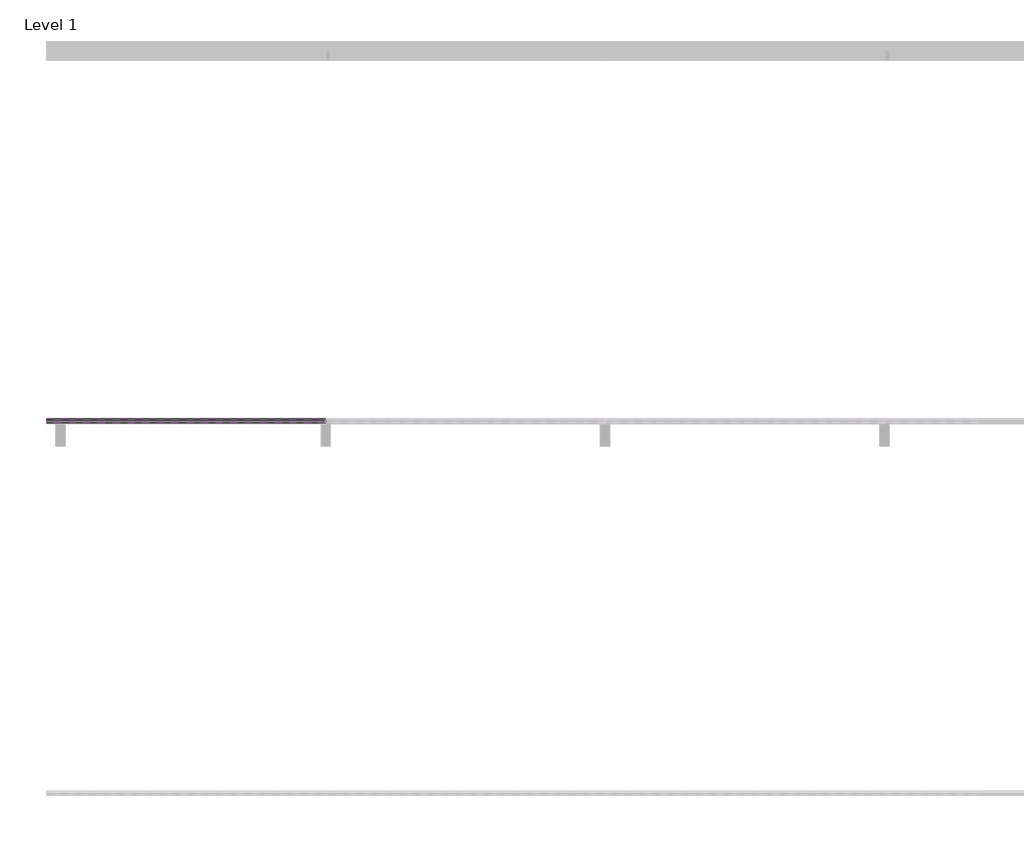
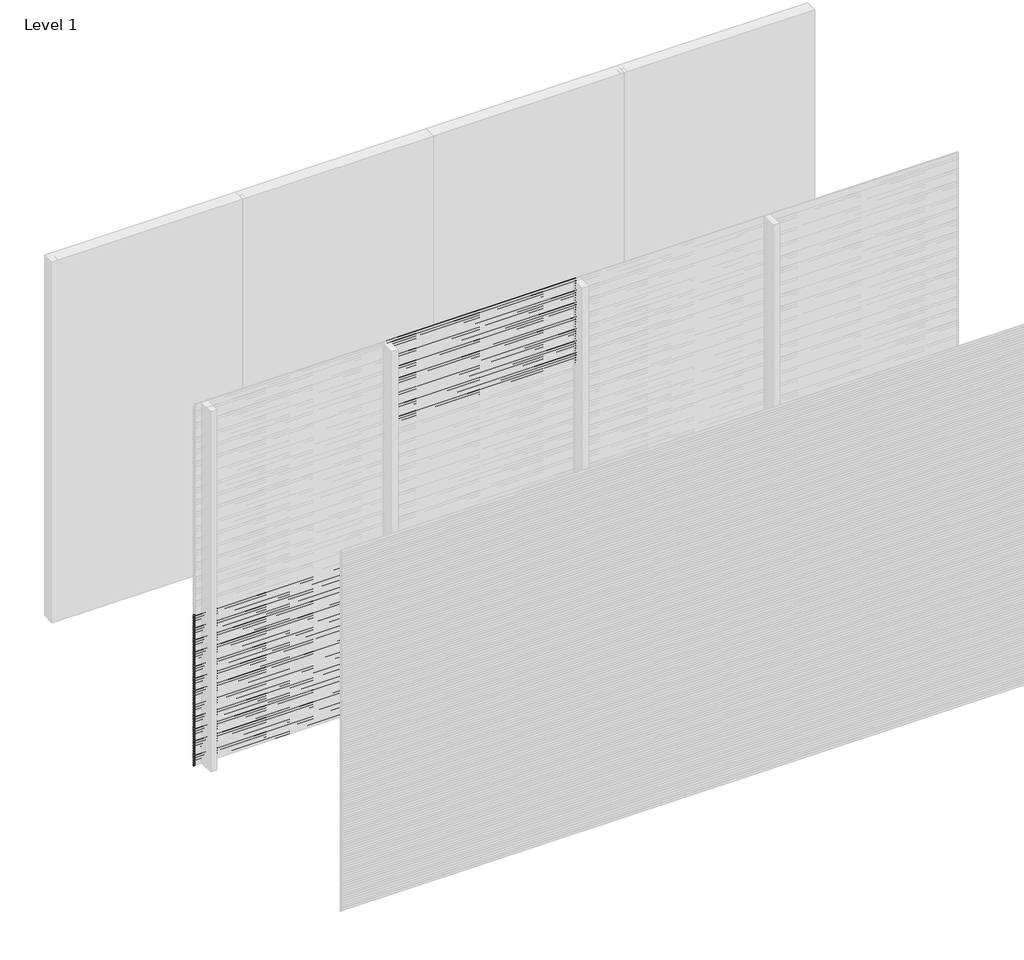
# One storey, part 4 of 31: 98 proxies.
"""IFC4 building model written with IfcOpenShell, lengths in millimetres."""

import ifcopenshell
import ifcopenshell.guid

model = None  # the IFC model being written
_history = None  # IfcOwnerHistory: only IFC2X3 demands one
_inside = {}  # id of a spatial element -> (the spatial element, [elements in it])
_under = {}  # id of a project, library or spatial element -> (it, [spatial elements below it])
_declared = {}  # id of a project -> (the project, [libraries it declares])
_typed = {}  # id of a type object -> (the type object, [elements of that type])
_made_of = {}  # id of a material, layer set ... -> (it, [elements and type objects made of it])


def new_model(schema):
    """Start an empty IFC model of exactly this schema.

    Asked for "IFC4X3", IfcOpenShell would pick the latest addendum, in which some entities
    have other attributes; the version numbers below select the first issue.
    IFC2X3 requires an IfcOwnerHistory on every rooted entity: one is made here for all.
    """
    global model, _history
    if schema == "IFC4X3":
        model = ifcopenshell.file(schema_version=(4, 3, 0, 0))
    else:
        model = ifcopenshell.file(schema=schema)
    _inside.clear()
    _under.clear()
    _declared.clear()
    _typed.clear()
    _made_of.clear()
    _history = None
    if model.schema == "IFC2X3":
        org = make("IfcOrganization", Name="unknown")
        user = make(
            "IfcPersonAndOrganization",
            ThePerson=make("IfcPerson", FamilyName="unknown"),
            TheOrganization=org,
        )
        app = make(
            "IfcApplication",
            ApplicationDeveloper=org,
            Version="unknown",
            ApplicationFullName="unknown",
            ApplicationIdentifier="unknown",
        )
        _history = make(
            "IfcOwnerHistory",
            OwningUser=user,
            OwningApplication=app,
            ChangeAction="ADDED",
            CreationDate=0,
        )
    return model


def make(cls, **values):
    """One entity of the class cls with the attributes given. An attribute that is None is left unset."""
    return model.create_entity(
        cls, **{name: value for name, value in values.items() if value is not None}
    )


def rooted(cls, **values):
    """An entity with a GlobalId (a new one), such as an element, a storey or a relation."""
    return make(cls, GlobalId=ifcopenshell.guid.new(), OwnerHistory=_history, **values)


def si_unit(unit_type, name, prefix=None):
    """IfcSIUnit, for example si_unit("LENGTHUNIT", "METRE", prefix="MILLI")."""
    return make("IfcSIUnit", UnitType=unit_type, Prefix=prefix, Name=name)


def assignment(units):
    """IfcUnitAssignment: the units of a project."""
    return None if units is None else make("IfcUnitAssignment", Units=units)


def point(xyz):
    """IfcCartesianPoint."""
    return None if xyz is None else make("IfcCartesianPoint", Coordinates=xyz)


def direction(xyz):
    """IfcDirection."""
    return None if xyz is None else make("IfcDirection", DirectionRatios=xyz)


def frame(location, z_axis=None, x_axis=None):
    """IfcAxis2Placement3D, a coordinate frame: its origin and axes. An axis left out is left unset."""
    return make(
        "IfcAxis2Placement3D",
        Location=point(location),
        Axis=direction(z_axis),
        RefDirection=direction(x_axis),
    )


def origin():
    """The frame at (0, 0, 0) with its axes left unset."""
    return frame((0.0, 0.0, 0.0))


def place(relative_to, where):
    """IfcLocalPlacement: puts the frame where relative to a parent placement (None: the world)."""
    return make(
        "IfcLocalPlacement", PlacementRelTo=relative_to, RelativePlacement=where
    )


def context(
    kind, dimensions, precision=None, world=None, true_north=None, identifier=None
):
    """IfcGeometricRepresentationContext, for example the 3D "Model" context."""
    return make(
        "IfcGeometricRepresentationContext",
        ContextIdentifier=identifier,
        ContextType=kind,
        CoordinateSpaceDimension=dimensions,
        Precision=precision,
        WorldCoordinateSystem=world,
        TrueNorth=true_north,
    )


def project(units=None, contexts=None):
    """IfcProject with its units and contexts."""
    return rooted(
        "IfcProject",
        Name="project",
        RepresentationContexts=contexts,
        UnitsInContext=assignment(units),
    )


def spatial(cls, under=None, at=None, **own):
    """A site, building, storey or space (cls), placed at a placement, below another one or the project."""
    s = rooted(cls, ObjectPlacement=at, **own)
    if under is not None:
        _under.setdefault(under.id(), (under, []))[1].append(s)
    return s


def polyline(points):
    """IfcPolyline through the points."""
    return make("IfcPolyline", Points=[point(p) for p in points])


def outline(outer, holes=None, kind="AREA"):
    """IfcArbitraryClosedProfileDef: a profile drawn as a closed curve; with holes, ...WithVoids."""
    if holes is None:
        return make("IfcArbitraryClosedProfileDef", ProfileType=kind, OuterCurve=outer)
    return make(
        "IfcArbitraryProfileDefWithVoids",
        ProfileType=kind,
        OuterCurve=outer,
        InnerCurves=holes,
    )


def extrude(swept, where, along, depth):
    """IfcExtrudedAreaSolid: the profile swept, set in the frame where, extruded along a direction by depth."""
    return make(
        "IfcExtrudedAreaSolid",
        SweptArea=swept,
        Position=where,
        ExtrudedDirection=direction(along),
        Depth=depth,
    )


def shape(context_of_items, identifier, shape_type, items):
    """IfcShapeRepresentation: the items that make up one representation, for example the "Body"."""
    return make(
        "IfcShapeRepresentation",
        ContextOfItems=context_of_items,
        RepresentationIdentifier=identifier,
        RepresentationType=shape_type,
        Items=items,
    )


def made_of(thing, what):
    """Note that an element or type object is made of a material, layer set ...; save() writes the relation."""
    if what is not None:
        _made_of.setdefault(what.id(), (what, []))[1].append(thing)
    return thing


def element(
    cls,
    number,
    at=None,
    inside=None,
    cuts=None,
    type_object=None,
    material=None,
    context=None,
    identifier="Body",
    shape_type=None,
    held_by="IfcProductDefinitionShape",
    body=None,
    shapes=None,
    **own,
):
    """One element of the class cls, such as IfcWall. Its Tag is "e" and its number.

    at: its placement. inside: the storey or other place that contains it. cuts: it is an
    opening in that element (IfcRelVoidsElement). A single representation is given by context,
    identifier, shape_type and body (its items); several are given by shapes. held_by: the class
    of the entity that holds the representations. save() writes the other relations.
    """
    e = rooted(cls, Tag="e%d" % number, ObjectPlacement=at, **own)
    if body is not None:
        shapes = [shape(context, identifier, shape_type, body)]
    if shapes is not None:
        e.Representation = make(held_by, Representations=shapes)
    if inside is not None:
        _inside.setdefault(inside.id(), (inside, []))[1].append(e)
    if cuts is not None:
        rooted(
            "IfcRelVoidsElement", RelatingBuildingElement=cuts, RelatedOpeningElement=e
        )
    if type_object is not None:
        _typed.setdefault(type_object.id(), (type_object, []))[1].append(e)
    return made_of(e, material)


def aggregate(whole, parts):
    """IfcRelAggregates: a whole, such as a stair, and the parts it consists of."""
    return rooted("IfcRelAggregates", RelatingObject=whole, RelatedObjects=parts)


def save(model, path):
    """Write the relations noted so far, then the file.

    IfcRelAggregates (storeys below a building ...), IfcRelContainedInSpatialStructure (elements
    in a storey), IfcRelDefinesByType, IfcRelAssociatesMaterial and IfcRelDeclares: one each for
    every whole, place, type object, material and project.
    """
    for whole, parts in _under.values():
        aggregate(whole, parts)
    for where, things in _inside.values():
        rooted(
            "IfcRelContainedInSpatialStructure",
            RelatedElements=things,
            RelatingStructure=where,
        )
    for kind, things in _typed.values():
        rooted("IfcRelDefinesByType", RelatedObjects=things, RelatingType=kind)
    for what, things in _made_of.values():
        rooted("IfcRelAssociatesMaterial", RelatedObjects=things, RelatingMaterial=what)
    for by, libraries in _declared.values():
        rooted("IfcRelDeclares", RelatingContext=by, RelatedDefinitions=libraries)
    model.write(path)


model = new_model("IFC4")

# Units and contexts
model_context = context("Model", 3, world=origin())
ifc_project = project(units=[si_unit("LENGTHUNIT", "METRE", prefix="MILLI")], contexts=[model_context])

# Site, building, storey
site = spatial("IfcSite", under=ifc_project)
building = spatial("IfcBuilding", under=site)
storey = spatial("IfcBuildingStorey", under=building, Name="Level 1", Elevation=0.0)

# Proxies
placement = place(None, origin())
element("IfcBuildingElementProxy", 1, Name="Wall Sweeps", at=placement, inside=storey, context=model_context, shape_type="SweptSolid", body=[
    extrude(outline(polyline([(-17995.0, 3000.0), (-17995.0, 2988.942893), (-17976.0, 2973.0), (-17976.0, 2960.0), (-17997.0, 2977.6210923), (-17997.0, 3000.0), (-17995.0, 3000.0)])), frame((1500.0000002, 0.0, 0.0), z_axis=(1.0, 0.0, 0.0), x_axis=(0.0, 1.0, 0.0)), (0.0, 0.0, 1.0), 1499.9999998),
])
element("IfcBuildingElementProxy", 2, Name="Wall Sweeps", at=placement, inside=storey, context=model_context, shape_type="SweptSolid", body=[
    extrude(outline(polyline([(-17995.0, 2980.0), (-17995.0, 2968.942893), (-17976.0, 2953.0), (-17976.0, 2940.0), (-17997.0, 2957.6210923), (-17997.0, 2980.0), (-17995.0, 2980.0)])), frame((1500.0000002, 0.0, 0.0), z_axis=(1.0, 0.0, 0.0), x_axis=(0.0, 1.0, 0.0)), (0.0, 0.0, 1.0), 1499.9999998),
])
element("IfcBuildingElementProxy", 3, Name="Wall Sweeps", at=placement, inside=storey, context=model_context, shape_type="SweptSolid", body=[
    extrude(outline(polyline([(-17995.0, 2960.0), (-17995.0, 2948.942893), (-17976.0, 2933.0), (-17976.0, 2920.0), (-17997.0, 2937.6210923), (-17997.0, 2960.0), (-17995.0, 2960.0)])), frame((1500.0000002, 0.0, 0.0), z_axis=(1.0, 0.0, 0.0), x_axis=(0.0, 1.0, 0.0)), (0.0, 0.0, 1.0), 1499.9999998),
])
element("IfcBuildingElementProxy", 4, Name="Wall Sweeps", at=placement, inside=storey, context=model_context, shape_type="SweptSolid", body=[
    extrude(outline(polyline([(-17995.0, 2940.0), (-17995.0, 2928.942893), (-17976.0, 2913.0), (-17976.0, 2900.0), (-17997.0, 2917.6210923), (-17997.0, 2940.0), (-17995.0, 2940.0)])), frame((1500.0000002, 0.0, 0.0), z_axis=(1.0, 0.0, 0.0), x_axis=(0.0, 1.0, 0.0)), (0.0, 0.0, 1.0), 1499.9999998),
])
element("IfcBuildingElementProxy", 5, Name="Wall Sweeps", at=placement, inside=storey, context=model_context, shape_type="SweptSolid", body=[
    extrude(outline(polyline([(-17995.0, 2920.0), (-17995.0, 2908.942893), (-17976.0, 2893.0), (-17976.0, 2880.0), (-17997.0, 2897.6210923), (-17997.0, 2920.0), (-17995.0, 2920.0)])), frame((1500.0000002, 0.0, 0.0), z_axis=(1.0, 0.0, 0.0), x_axis=(0.0, 1.0, 0.0)), (0.0, 0.0, 1.0), 1499.9999998),
])
element("IfcBuildingElementProxy", 6, Name="Wall Sweeps", at=placement, inside=storey, context=model_context, shape_type="SweptSolid", body=[
    extrude(outline(polyline([(-17995.0, 2900.0), (-17995.0, 2888.942893), (-17976.0, 2873.0), (-17976.0, 2860.0), (-17997.0, 2877.6210923), (-17997.0, 2900.0), (-17995.0, 2900.0)])), frame((1500.0000002, 0.0, 0.0), z_axis=(1.0, 0.0, 0.0), x_axis=(0.0, 1.0, 0.0)), (0.0, 0.0, 1.0), 1499.9999998),
])
element("IfcBuildingElementProxy", 7, Name="Wall Sweeps", at=placement, inside=storey, context=model_context, shape_type="SweptSolid", body=[
    extrude(outline(polyline([(-17995.0, 2880.0), (-17995.0, 2868.942893), (-17976.0, 2853.0), (-17976.0, 2840.0), (-17997.0, 2857.6210923), (-17997.0, 2880.0), (-17995.0, 2880.0)])), frame((1500.0000002, 0.0, 0.0), z_axis=(1.0, 0.0, 0.0), x_axis=(0.0, 1.0, 0.0)), (0.0, 0.0, 1.0), 1499.9999998),
])
element("IfcBuildingElementProxy", 8, Name="Wall Sweeps", at=placement, inside=storey, context=model_context, shape_type="SweptSolid", body=[
    extrude(outline(polyline([(-17995.0, 2860.0), (-17995.0, 2848.942893), (-17976.0, 2833.0), (-17976.0, 2820.0), (-17997.0, 2837.6210923), (-17997.0, 2860.0), (-17995.0, 2860.0)])), frame((1500.0000002, 0.0, 0.0), z_axis=(1.0, 0.0, 0.0), x_axis=(0.0, 1.0, 0.0)), (0.0, 0.0, 1.0), 1499.9999998),
])
element("IfcBuildingElementProxy", 9, Name="Wall Sweeps", at=placement, inside=storey, context=model_context, shape_type="SweptSolid", body=[
    extrude(outline(polyline([(-17995.0, 2840.0), (-17995.0, 2828.942893), (-17976.0, 2813.0), (-17976.0, 2800.0), (-17997.0, 2817.6210923), (-17997.0, 2840.0), (-17995.0, 2840.0)])), frame((1500.0000002, 0.0, 0.0), z_axis=(1.0, 0.0, 0.0), x_axis=(0.0, 1.0, 0.0)), (0.0, 0.0, 1.0), 1499.9999998),
])
element("IfcBuildingElementProxy", 10, Name="Wall Sweeps", at=placement, inside=storey, context=model_context, shape_type="SweptSolid", body=[
    extrude(outline(polyline([(-17995.0, 2820.0), (-17995.0, 2808.942893), (-17976.0, 2793.0), (-17976.0, 2780.0), (-17997.0, 2797.6210923), (-17997.0, 2820.0), (-17995.0, 2820.0)])), frame((1500.0000002, 0.0, 0.0), z_axis=(1.0, 0.0, 0.0), x_axis=(0.0, 1.0, 0.0)), (0.0, 0.0, 1.0), 1499.9999998),
])
element("IfcBuildingElementProxy", 11, Name="Wall Sweeps", at=placement, inside=storey, context=model_context, shape_type="SweptSolid", body=[
    extrude(outline(polyline([(-17995.0, 2800.0), (-17995.0, 2788.942893), (-17976.0, 2773.0), (-17976.0, 2760.0), (-17997.0, 2777.6210923), (-17997.0, 2800.0), (-17995.0, 2800.0)])), frame((1500.0000002, 0.0, 0.0), z_axis=(1.0, 0.0, 0.0), x_axis=(0.0, 1.0, 0.0)), (0.0, 0.0, 1.0), 1499.9999998),
])
element("IfcBuildingElementProxy", 12, Name="Wall Sweeps", at=placement, inside=storey, context=model_context, shape_type="SweptSolid", body=[
    extrude(outline(polyline([(-17995.0, 2780.0), (-17995.0, 2768.942893), (-17976.0, 2753.0), (-17976.0, 2740.0), (-17997.0, 2757.6210923), (-17997.0, 2780.0), (-17995.0, 2780.0)])), frame((1500.0000002, 0.0, 0.0), z_axis=(1.0, 0.0, 0.0), x_axis=(0.0, 1.0, 0.0)), (0.0, 0.0, 1.0), 1499.9999998),
])
element("IfcBuildingElementProxy", 13, Name="Wall Sweeps", at=placement, inside=storey, context=model_context, shape_type="SweptSolid", body=[
    extrude(outline(polyline([(-17995.0, 2760.0), (-17995.0, 2748.942893), (-17976.0, 2733.0), (-17976.0, 2720.0), (-17997.0, 2737.6210923), (-17997.0, 2760.0), (-17995.0, 2760.0)])), frame((1500.0000002, 0.0, 0.0), z_axis=(1.0, 0.0, 0.0), x_axis=(0.0, 1.0, 0.0)), (0.0, 0.0, 1.0), 1499.9999998),
])
element("IfcBuildingElementProxy", 14, Name="Wall Sweeps", at=placement, inside=storey, context=model_context, shape_type="SweptSolid", body=[
    extrude(outline(polyline([(-17995.0, 2740.0), (-17995.0, 2728.942893), (-17976.0, 2713.0), (-17976.0, 2700.0), (-17997.0, 2717.6210923), (-17997.0, 2740.0), (-17995.0, 2740.0)])), frame((1500.0000002, 0.0, 0.0), z_axis=(1.0, 0.0, 0.0), x_axis=(0.0, 1.0, 0.0)), (0.0, 0.0, 1.0), 1499.9999998),
])
element("IfcBuildingElementProxy", 15, Name="Wall Sweeps", at=placement, inside=storey, context=model_context, shape_type="SweptSolid", body=[
    extrude(outline(polyline([(-17995.0, 2720.0), (-17995.0, 2708.942893), (-17976.0, 2693.0), (-17976.0, 2680.0), (-17997.0, 2697.6210923), (-17997.0, 2720.0), (-17995.0, 2720.0)])), frame((1500.0000002, 0.0, 0.0), z_axis=(1.0, 0.0, 0.0), x_axis=(0.0, 1.0, 0.0)), (0.0, 0.0, 1.0), 1499.9999998),
])
element("IfcBuildingElementProxy", 16, Name="Wall Sweeps", at=placement, inside=storey, context=model_context, shape_type="SweptSolid", body=[
    extrude(outline(polyline([(-17995.0, 2700.0), (-17995.0, 2688.942893), (-17976.0, 2673.0), (-17976.0, 2660.0), (-17997.0, 2677.6210923), (-17997.0, 2700.0), (-17995.0, 2700.0)])), frame((1500.0000002, 0.0, 0.0), z_axis=(1.0, 0.0, 0.0), x_axis=(0.0, 1.0, 0.0)), (0.0, 0.0, 1.0), 1499.9999998),
])
element("IfcBuildingElementProxy", 17, Name="Wall Sweeps", at=placement, inside=storey, context=model_context, shape_type="SweptSolid", body=[
    extrude(outline(polyline([(-17995.0, 2680.0), (-17995.0, 2668.942893), (-17976.0, 2653.0), (-17976.0, 2640.0), (-17997.0, 2657.6210923), (-17997.0, 2680.0), (-17995.0, 2680.0)])), frame((1500.0000002, 0.0, 0.0), z_axis=(1.0, 0.0, 0.0), x_axis=(0.0, 1.0, 0.0)), (0.0, 0.0, 1.0), 1499.9999998),
])
element("IfcBuildingElementProxy", 18, Name="Wall Sweeps", at=placement, inside=storey, context=model_context, shape_type="SweptSolid", body=[
    extrude(outline(polyline([(-17995.0, 2660.0), (-17995.0, 2648.942893), (-17976.0, 2633.0), (-17976.0, 2620.0), (-17997.0, 2637.6210923), (-17997.0, 2660.0), (-17995.0, 2660.0)])), frame((1500.0000002, 0.0, 0.0), z_axis=(1.0, 0.0, 0.0), x_axis=(0.0, 1.0, 0.0)), (0.0, 0.0, 1.0), 1499.9999998),
])
element("IfcBuildingElementProxy", 19, Name="Wall Sweeps", at=placement, inside=storey, context=model_context, shape_type="SweptSolid", body=[
    extrude(outline(polyline([(-17995.0, 2640.0), (-17995.0, 2628.942893), (-17976.0, 2613.0), (-17976.0, 2600.0), (-17997.0, 2617.6210923), (-17997.0, 2640.0), (-17995.0, 2640.0)])), frame((1500.0000002, 0.0, 0.0), z_axis=(1.0, 0.0, 0.0), x_axis=(0.0, 1.0, 0.0)), (0.0, 0.0, 1.0), 1499.9999998),
])
element("IfcBuildingElementProxy", 20, Name="Wall Sweeps", at=placement, inside=storey, context=model_context, shape_type="SweptSolid", body=[
    extrude(outline(polyline([(-17995.0, 2620.0), (-17995.0, 2608.942893), (-17976.0, 2593.0), (-17976.0, 2580.0), (-17997.0, 2597.6210923), (-17997.0, 2620.0), (-17995.0, 2620.0)])), frame((1500.0000002, 0.0, 0.0), z_axis=(1.0, 0.0, 0.0), x_axis=(0.0, 1.0, 0.0)), (0.0, 0.0, 1.0), 1499.9999998),
])
element("IfcBuildingElementProxy", 21, Name="Wall Sweeps", at=placement, inside=storey, context=model_context, shape_type="SweptSolid", body=[
    extrude(outline(polyline([(-17995.0, 2600.0), (-17995.0, 2588.942893), (-17976.0, 2573.0), (-17976.0, 2560.0), (-17997.0, 2577.6210923), (-17997.0, 2600.0), (-17995.0, 2600.0)])), frame((1500.0000002, 0.0, 0.0), z_axis=(1.0, 0.0, 0.0), x_axis=(0.0, 1.0, 0.0)), (0.0, 0.0, 1.0), 1499.9999998),
])
element("IfcBuildingElementProxy", 22, Name="Wall Sweeps", at=placement, inside=storey, context=model_context, shape_type="SweptSolid", body=[
    extrude(outline(polyline([(-17995.0, 2580.0), (-17995.0, 2568.942893), (-17976.0, 2553.0), (-17976.0, 2540.0), (-17997.0, 2557.6210923), (-17997.0, 2580.0), (-17995.0, 2580.0)])), frame((1500.0000002, 0.0, 0.0), z_axis=(1.0, 0.0, 0.0), x_axis=(0.0, 1.0, 0.0)), (0.0, 0.0, 1.0), 1499.9999998),
])
element("IfcBuildingElementProxy", 23, Name="Wall Sweeps", at=placement, inside=storey, context=model_context, shape_type="SweptSolid", body=[
    extrude(outline(polyline([(-17995.0, 2560.0), (-17995.0, 2548.942893), (-17976.0, 2533.0), (-17976.0, 2520.0), (-17997.0, 2537.6210923), (-17997.0, 2560.0), (-17995.0, 2560.0)])), frame((1500.0000002, 0.0, 0.0), z_axis=(1.0, 0.0, 0.0), x_axis=(0.0, 1.0, 0.0)), (0.0, 0.0, 1.0), 1499.9999998),
])
element("IfcBuildingElementProxy", 24, Name="Wall Sweeps", at=placement, inside=storey, context=model_context, shape_type="SweptSolid", body=[
    extrude(outline(polyline([(-17995.0, 2540.0), (-17995.0, 2528.942893), (-17976.0, 2513.0), (-17976.0, 2500.0), (-17997.0, 2517.6210923), (-17997.0, 2540.0), (-17995.0, 2540.0)])), frame((1500.0000002, 0.0, 0.0), z_axis=(1.0, 0.0, 0.0), x_axis=(0.0, 1.0, 0.0)), (0.0, 0.0, 1.0), 1499.9999998),
])
element("IfcBuildingElementProxy", 25, Name="Wall Sweeps", at=placement, inside=storey, context=model_context, shape_type="SweptSolid", body=[
    extrude(outline(polyline([(-17995.0, 2520.0), (-17995.0, 2508.942893), (-17976.0, 2493.0), (-17976.0, 2480.0), (-17997.0, 2497.6210923), (-17997.0, 2520.0), (-17995.0, 2520.0)])), frame((1500.0000002, 0.0, 0.0), z_axis=(1.0, 0.0, 0.0), x_axis=(0.0, 1.0, 0.0)), (0.0, 0.0, 1.0), 1499.9999998),
])
element("IfcBuildingElementProxy", 26, Name="Wall Sweeps", at=placement, inside=storey, context=model_context, shape_type="SweptSolid", body=[
    extrude(outline(polyline([(-17995.0, 2500.0), (-17995.0, 2488.942893), (-17976.0, 2473.0), (-17976.0, 2460.0), (-17997.0, 2477.6210923), (-17997.0, 2500.0), (-17995.0, 2500.0)])), frame((1500.0000002, 0.0, 0.0), z_axis=(1.0, 0.0, 0.0), x_axis=(0.0, 1.0, 0.0)), (0.0, 0.0, 1.0), 1499.9999998),
])
element("IfcBuildingElementProxy", 27, Name="Wall Sweeps", at=placement, inside=storey, context=model_context, shape_type="SweptSolid", body=[
    extrude(outline(polyline([(-17995.0, 2480.0), (-17995.0, 2468.942893), (-17976.0, 2453.0), (-17976.0, 2440.0), (-17997.0, 2457.6210923), (-17997.0, 2480.0), (-17995.0, 2480.0)])), frame((1500.0000002, 0.0, 0.0), z_axis=(1.0, 0.0, 0.0), x_axis=(0.0, 1.0, 0.0)), (0.0, 0.0, 1.0), 1499.9999998),
])
element("IfcBuildingElementProxy", 28, Name="Wall Sweeps", at=placement, inside=storey, context=model_context, shape_type="SweptSolid", body=[
    extrude(outline(polyline([(-17995.0, 2460.0), (-17995.0, 2448.942893), (-17976.0, 2433.0), (-17976.0, 2420.0), (-17997.0, 2437.6210923), (-17997.0, 2460.0), (-17995.0, 2460.0)])), frame((1500.0000002, 0.0, 0.0), z_axis=(1.0, 0.0, 0.0), x_axis=(0.0, 1.0, 0.0)), (0.0, 0.0, 1.0), 1499.9999998),
])
element("IfcBuildingElementProxy", 29, Name="Wall Sweeps", at=placement, inside=storey, context=model_context, shape_type="SweptSolid", body=[
    extrude(outline(polyline([(-17995.0, 2440.0), (-17995.0, 2428.942893), (-17976.0, 2413.0), (-17976.0, 2400.0), (-17997.0, 2417.6210923), (-17997.0, 2440.0), (-17995.0, 2440.0)])), frame((1500.0000002, 0.0, 0.0), z_axis=(1.0, 0.0, 0.0), x_axis=(0.0, 1.0, 0.0)), (0.0, 0.0, 1.0), 1499.9999998),
])
element("IfcBuildingElementProxy", 30, Name="Wall Sweeps", at=placement, inside=storey, context=model_context, shape_type="SweptSolid", body=[
    extrude(outline(polyline([(-17995.0, 2420.0), (-17995.0, 2408.942893), (-17976.0, 2393.0), (-17976.0, 2380.0), (-17997.0, 2397.6210923), (-17997.0, 2420.0), (-17995.0, 2420.0)])), frame((1500.0000002, 0.0, 0.0), z_axis=(1.0, 0.0, 0.0), x_axis=(0.0, 1.0, 0.0)), (0.0, 0.0, 1.0), 1499.9999998),
])
element("IfcBuildingElementProxy", 31, Name="Wall Sweeps", at=placement, inside=storey, context=model_context, shape_type="SweptSolid", body=[
    extrude(outline(polyline([(-17995.0, 2400.0), (-17995.0, 2388.942893), (-17976.0, 2373.0), (-17976.0, 2360.0), (-17997.0, 2377.6210923), (-17997.0, 2400.0), (-17995.0, 2400.0)])), frame((1500.0000002, 0.0, 0.0), z_axis=(1.0, 0.0, 0.0), x_axis=(0.0, 1.0, 0.0)), (0.0, 0.0, 1.0), 1499.9999998),
])
element("IfcBuildingElementProxy", 32, Name="Wall Sweeps", at=placement, inside=storey, context=model_context, shape_type="SweptSolid", body=[
    extrude(outline(polyline([(-17995.0, 2380.0), (-17995.0, 2368.942893), (-17976.0, 2353.0), (-17976.0, 2340.0), (-17997.0, 2357.6210923), (-17997.0, 2380.0), (-17995.0, 2380.0)])), frame((1500.0000002, 0.0, 0.0), z_axis=(1.0, 0.0, 0.0), x_axis=(0.0, 1.0, 0.0)), (0.0, 0.0, 1.0), 1499.9999998),
])
element("IfcBuildingElementProxy", 33, Name="Wall Sweeps", at=placement, inside=storey, context=model_context, shape_type="SweptSolid", body=[
    extrude(outline(polyline([(-17995.0, 2360.0), (-17995.0, 2348.942893), (-17976.0, 2333.0), (-17976.0, 2320.0), (-17997.0, 2337.6210923), (-17997.0, 2360.0), (-17995.0, 2360.0)])), frame((1500.0000002, 0.0, 0.0), z_axis=(1.0, 0.0, 0.0), x_axis=(0.0, 1.0, 0.0)), (0.0, 0.0, 1.0), 1499.9999998),
])
element("IfcBuildingElementProxy", 34, Name="Wall Sweeps", at=placement, inside=storey, context=model_context, shape_type="SweptSolid", body=[
    extrude(outline(polyline([(-17995.0, 2340.0), (-17995.0, 2328.942893), (-17976.0, 2313.0), (-17976.0, 2300.0), (-17997.0, 2317.6210923), (-17997.0, 2340.0), (-17995.0, 2340.0)])), frame((1500.0000002, 0.0, 0.0), z_axis=(1.0, 0.0, 0.0), x_axis=(0.0, 1.0, 0.0)), (0.0, 0.0, 1.0), 1499.9999998),
])
element("IfcBuildingElementProxy", 35, Name="Wall Sweeps", at=placement, inside=storey, context=model_context, shape_type="SweptSolid", body=[
    extrude(outline(polyline([(-17995.0, 2320.0), (-17995.0, 2308.942893), (-17976.0, 2293.0), (-17976.0, 2280.0), (-17997.0, 2297.6210923), (-17997.0, 2320.0), (-17995.0, 2320.0)])), frame((1500.0000002, 0.0, 0.0), z_axis=(1.0, 0.0, 0.0), x_axis=(0.0, 1.0, 0.0)), (0.0, 0.0, 1.0), 1499.9999998),
])
element("IfcBuildingElementProxy", 36, Name="Wall Sweeps", at=placement, inside=storey, context=model_context, shape_type="SweptSolid", body=[
    extrude(outline(polyline([(-17995.0, 1260.0), (-17995.0, 1248.942893), (-17976.0, 1233.0), (-17976.0, 1220.0), (-17997.0, 1237.6210923), (-17997.0, 1260.0), (-17995.0, 1260.0)])), frame((0.0, 0.0, 0.0), z_axis=(1.0, 0.0, 0.0), x_axis=(0.0, 1.0, 0.0)), (0.0, 0.0, 1.0), 1500.0000002),
])
element("IfcBuildingElementProxy", 37, Name="Wall Sweeps", at=placement, inside=storey, context=model_context, shape_type="SweptSolid", body=[
    extrude(outline(polyline([(-17995.0, 1240.0), (-17995.0, 1228.942893), (-17976.0, 1213.0), (-17976.0, 1200.0), (-17997.0, 1217.6210923), (-17997.0, 1240.0), (-17995.0, 1240.0)])), frame((0.0, 0.0, 0.0), z_axis=(1.0, 0.0, 0.0), x_axis=(0.0, 1.0, 0.0)), (0.0, 0.0, 1.0), 1500.0000002),
])
element("IfcBuildingElementProxy", 38, Name="Wall Sweeps", at=placement, inside=storey, context=model_context, shape_type="SweptSolid", body=[
    extrude(outline(polyline([(-17995.0, 1220.0), (-17995.0, 1208.942893), (-17976.0, 1193.0), (-17976.0, 1180.0), (-17997.0, 1197.6210923), (-17997.0, 1220.0), (-17995.0, 1220.0)])), frame((0.0, 0.0, 0.0), z_axis=(1.0, 0.0, 0.0), x_axis=(0.0, 1.0, 0.0)), (0.0, 0.0, 1.0), 1500.0000002),
])
element("IfcBuildingElementProxy", 39, Name="Wall Sweeps", at=placement, inside=storey, context=model_context, shape_type="SweptSolid", body=[
    extrude(outline(polyline([(-17995.0, 1200.0), (-17995.0, 1188.942893), (-17976.0, 1173.0), (-17976.0, 1160.0), (-17997.0, 1177.6210923), (-17997.0, 1200.0), (-17995.0, 1200.0)])), frame((0.0, 0.0, 0.0), z_axis=(1.0, 0.0, 0.0), x_axis=(0.0, 1.0, 0.0)), (0.0, 0.0, 1.0), 1500.0000002),
])
element("IfcBuildingElementProxy", 40, Name="Wall Sweeps", at=placement, inside=storey, context=model_context, shape_type="SweptSolid", body=[
    extrude(outline(polyline([(-17995.0, 1180.0), (-17995.0, 1168.942893), (-17976.0, 1153.0), (-17976.0, 1140.0), (-17997.0, 1157.6210923), (-17997.0, 1180.0), (-17995.0, 1180.0)])), frame((0.0, 0.0, 0.0), z_axis=(1.0, 0.0, 0.0), x_axis=(0.0, 1.0, 0.0)), (0.0, 0.0, 1.0), 1500.0000002),
])
element("IfcBuildingElementProxy", 41, Name="Wall Sweeps", at=placement, inside=storey, context=model_context, shape_type="SweptSolid", body=[
    extrude(outline(polyline([(-17995.0, 1160.0), (-17995.0, 1148.942893), (-17976.0, 1133.0), (-17976.0, 1120.0), (-17997.0, 1137.6210923), (-17997.0, 1160.0), (-17995.0, 1160.0)])), frame((0.0, 0.0, 0.0), z_axis=(1.0, 0.0, 0.0), x_axis=(0.0, 1.0, 0.0)), (0.0, 0.0, 1.0), 1500.0000002),
])
element("IfcBuildingElementProxy", 42, Name="Wall Sweeps", at=placement, inside=storey, context=model_context, shape_type="SweptSolid", body=[
    extrude(outline(polyline([(-17995.0, 1140.0), (-17995.0, 1128.942893), (-17976.0, 1113.0), (-17976.0, 1100.0), (-17997.0, 1117.6210923), (-17997.0, 1140.0), (-17995.0, 1140.0)])), frame((0.0, 0.0, 0.0), z_axis=(1.0, 0.0, 0.0), x_axis=(0.0, 1.0, 0.0)), (0.0, 0.0, 1.0), 1500.0000002),
])
element("IfcBuildingElementProxy", 43, Name="Wall Sweeps", at=placement, inside=storey, context=model_context, shape_type="SweptSolid", body=[
    extrude(outline(polyline([(-17995.0, 1120.0), (-17995.0, 1108.942893), (-17976.0, 1093.0), (-17976.0, 1080.0), (-17997.0, 1097.6210923), (-17997.0, 1120.0), (-17995.0, 1120.0)])), frame((0.0, 0.0, 0.0), z_axis=(1.0, 0.0, 0.0), x_axis=(0.0, 1.0, 0.0)), (0.0, 0.0, 1.0), 1500.0000002),
])
element("IfcBuildingElementProxy", 44, Name="Wall Sweeps", at=placement, inside=storey, context=model_context, shape_type="SweptSolid", body=[
    extrude(outline(polyline([(-17995.0, 1100.0), (-17995.0, 1088.942893), (-17976.0, 1073.0), (-17976.0, 1060.0), (-17997.0, 1077.6210923), (-17997.0, 1100.0), (-17995.0, 1100.0)])), frame((0.0, 0.0, 0.0), z_axis=(1.0, 0.0, 0.0), x_axis=(0.0, 1.0, 0.0)), (0.0, 0.0, 1.0), 1500.0000002),
])
element("IfcBuildingElementProxy", 45, Name="Wall Sweeps", at=placement, inside=storey, context=model_context, shape_type="SweptSolid", body=[
    extrude(outline(polyline([(-17995.0, 1080.0), (-17995.0, 1068.942893), (-17976.0, 1053.0), (-17976.0, 1040.0), (-17997.0, 1057.6210923), (-17997.0, 1080.0), (-17995.0, 1080.0)])), frame((0.0, 0.0, 0.0), z_axis=(1.0, 0.0, 0.0), x_axis=(0.0, 1.0, 0.0)), (0.0, 0.0, 1.0), 1500.0000002),
])
element("IfcBuildingElementProxy", 46, Name="Wall Sweeps", at=placement, inside=storey, context=model_context, shape_type="SweptSolid", body=[
    extrude(outline(polyline([(-17995.0, 1060.0), (-17995.0, 1048.942893), (-17976.0, 1033.0), (-17976.0, 1020.0), (-17997.0, 1037.6210923), (-17997.0, 1060.0), (-17995.0, 1060.0)])), frame((0.0, 0.0, 0.0), z_axis=(1.0, 0.0, 0.0), x_axis=(0.0, 1.0, 0.0)), (0.0, 0.0, 1.0), 1500.0000002),
])
element("IfcBuildingElementProxy", 47, Name="Wall Sweeps", at=placement, inside=storey, context=model_context, shape_type="SweptSolid", body=[
    extrude(outline(polyline([(-17995.0, 1040.0), (-17995.0, 1028.942893), (-17976.0, 1013.0), (-17976.0, 1000.0), (-17997.0, 1017.6210923), (-17997.0, 1040.0), (-17995.0, 1040.0)])), frame((0.0, 0.0, 0.0), z_axis=(1.0, 0.0, 0.0), x_axis=(0.0, 1.0, 0.0)), (0.0, 0.0, 1.0), 1500.0000002),
])
element("IfcBuildingElementProxy", 48, Name="Wall Sweeps", at=placement, inside=storey, context=model_context, shape_type="SweptSolid", body=[
    extrude(outline(polyline([(-17995.0, 1020.0), (-17995.0, 1008.942893), (-17976.0, 993.0), (-17976.0, 980.0), (-17997.0, 997.6210923), (-17997.0, 1020.0), (-17995.0, 1020.0)])), frame((0.0, 0.0, 0.0), z_axis=(1.0, 0.0, 0.0), x_axis=(0.0, 1.0, 0.0)), (0.0, 0.0, 1.0), 1500.0000002),
])
element("IfcBuildingElementProxy", 49, Name="Wall Sweeps", at=placement, inside=storey, context=model_context, shape_type="SweptSolid", body=[
    extrude(outline(polyline([(-17995.0, 1000.0), (-17995.0, 988.942893), (-17976.0, 973.0), (-17976.0, 960.0), (-17997.0, 977.6210923), (-17997.0, 1000.0), (-17995.0, 1000.0)])), frame((0.0, 0.0, 0.0), z_axis=(1.0, 0.0, 0.0), x_axis=(0.0, 1.0, 0.0)), (0.0, 0.0, 1.0), 1500.0000002),
])
element("IfcBuildingElementProxy", 50, Name="Wall Sweeps", at=placement, inside=storey, context=model_context, shape_type="SweptSolid", body=[
    extrude(outline(polyline([(-17995.0, 980.0), (-17995.0, 968.942893), (-17976.0, 953.0), (-17976.0, 940.0), (-17997.0, 957.6210923), (-17997.0, 980.0), (-17995.0, 980.0)])), frame((0.0, 0.0, 0.0), z_axis=(1.0, 0.0, 0.0), x_axis=(0.0, 1.0, 0.0)), (0.0, 0.0, 1.0), 1500.0000002),
])
element("IfcBuildingElementProxy", 51, Name="Wall Sweeps", at=placement, inside=storey, context=model_context, shape_type="SweptSolid", body=[
    extrude(outline(polyline([(-17995.0, 960.0), (-17995.0, 948.942893), (-17976.0, 933.0), (-17976.0, 920.0), (-17997.0, 937.6210923), (-17997.0, 960.0), (-17995.0, 960.0)])), frame((0.0, 0.0, 0.0), z_axis=(1.0, 0.0, 0.0), x_axis=(0.0, 1.0, 0.0)), (0.0, 0.0, 1.0), 1500.0000002),
])
element("IfcBuildingElementProxy", 52, Name="Wall Sweeps", at=placement, inside=storey, context=model_context, shape_type="SweptSolid", body=[
    extrude(outline(polyline([(-17995.0, 940.0), (-17995.0, 928.942893), (-17976.0, 913.0), (-17976.0, 900.0), (-17997.0, 917.6210923), (-17997.0, 940.0), (-17995.0, 940.0)])), frame((0.0, 0.0, 0.0), z_axis=(1.0, 0.0, 0.0), x_axis=(0.0, 1.0, 0.0)), (0.0, 0.0, 1.0), 1500.0000002),
])
element("IfcBuildingElementProxy", 53, Name="Wall Sweeps", at=placement, inside=storey, context=model_context, shape_type="SweptSolid", body=[
    extrude(outline(polyline([(-17995.0, 920.0), (-17995.0, 908.942893), (-17976.0, 893.0), (-17976.0, 880.0), (-17997.0, 897.6210923), (-17997.0, 920.0), (-17995.0, 920.0)])), frame((0.0, 0.0, 0.0), z_axis=(1.0, 0.0, 0.0), x_axis=(0.0, 1.0, 0.0)), (0.0, 0.0, 1.0), 1500.0000002),
])
element("IfcBuildingElementProxy", 54, Name="Wall Sweeps", at=placement, inside=storey, context=model_context, shape_type="SweptSolid", body=[
    extrude(outline(polyline([(-17995.0, 900.0), (-17995.0, 888.942893), (-17976.0, 873.0), (-17976.0, 860.0), (-17997.0, 877.6210923), (-17997.0, 900.0), (-17995.0, 900.0)])), frame((0.0, 0.0, 0.0), z_axis=(1.0, 0.0, 0.0), x_axis=(0.0, 1.0, 0.0)), (0.0, 0.0, 1.0), 1500.0000002),
])
element("IfcBuildingElementProxy", 55, Name="Wall Sweeps", at=placement, inside=storey, context=model_context, shape_type="SweptSolid", body=[
    extrude(outline(polyline([(-17995.0, 880.0), (-17995.0, 868.942893), (-17976.0, 853.0), (-17976.0, 840.0), (-17997.0, 857.6210923), (-17997.0, 880.0), (-17995.0, 880.0)])), frame((0.0, 0.0, 0.0), z_axis=(1.0, 0.0, 0.0), x_axis=(0.0, 1.0, 0.0)), (0.0, 0.0, 1.0), 1500.0000002),
])
element("IfcBuildingElementProxy", 56, Name="Wall Sweeps", at=placement, inside=storey, context=model_context, shape_type="SweptSolid", body=[
    extrude(outline(polyline([(-17995.0, 860.0), (-17995.0, 848.942893), (-17976.0, 833.0), (-17976.0, 820.0), (-17997.0, 837.6210923), (-17997.0, 860.0), (-17995.0, 860.0)])), frame((0.0, 0.0, 0.0), z_axis=(1.0, 0.0, 0.0), x_axis=(0.0, 1.0, 0.0)), (0.0, 0.0, 1.0), 1500.0000002),
])
element("IfcBuildingElementProxy", 57, Name="Wall Sweeps", at=placement, inside=storey, context=model_context, shape_type="SweptSolid", body=[
    extrude(outline(polyline([(-17995.0, 840.0), (-17995.0, 828.942893), (-17976.0, 813.0), (-17976.0, 800.0), (-17997.0, 817.6210923), (-17997.0, 840.0), (-17995.0, 840.0)])), frame((0.0, 0.0, 0.0), z_axis=(1.0, 0.0, 0.0), x_axis=(0.0, 1.0, 0.0)), (0.0, 0.0, 1.0), 1500.0000002),
])
element("IfcBuildingElementProxy", 58, Name="Wall Sweeps", at=placement, inside=storey, context=model_context, shape_type="SweptSolid", body=[
    extrude(outline(polyline([(-17995.0, 820.0), (-17995.0, 808.942893), (-17976.0, 793.0), (-17976.0, 780.0), (-17997.0, 797.6210923), (-17997.0, 820.0), (-17995.0, 820.0)])), frame((0.0, 0.0, 0.0), z_axis=(1.0, 0.0, 0.0), x_axis=(0.0, 1.0, 0.0)), (0.0, 0.0, 1.0), 1500.0000002),
])
element("IfcBuildingElementProxy", 59, Name="Wall Sweeps", at=placement, inside=storey, context=model_context, shape_type="SweptSolid", body=[
    extrude(outline(polyline([(-17995.0, 800.0), (-17995.0, 788.942893), (-17976.0, 773.0), (-17976.0, 760.0), (-17997.0, 777.6210923), (-17997.0, 800.0), (-17995.0, 800.0)])), frame((0.0, 0.0, 0.0), z_axis=(1.0, 0.0, 0.0), x_axis=(0.0, 1.0, 0.0)), (0.0, 0.0, 1.0), 1500.0000002),
])
element("IfcBuildingElementProxy", 60, Name="Wall Sweeps", at=placement, inside=storey, context=model_context, shape_type="SweptSolid", body=[
    extrude(outline(polyline([(-17995.0, 780.0), (-17995.0, 768.942893), (-17976.0, 753.0), (-17976.0, 740.0), (-17997.0, 757.6210923), (-17997.0, 780.0), (-17995.0, 780.0)])), frame((0.0, 0.0, 0.0), z_axis=(1.0, 0.0, 0.0), x_axis=(0.0, 1.0, 0.0)), (0.0, 0.0, 1.0), 1500.0000002),
])
element("IfcBuildingElementProxy", 61, Name="Wall Sweeps", at=placement, inside=storey, context=model_context, shape_type="SweptSolid", body=[
    extrude(outline(polyline([(-17995.0, 760.0), (-17995.0, 748.942893), (-17976.0, 733.0), (-17976.0, 720.0), (-17997.0, 737.6210923), (-17997.0, 760.0), (-17995.0, 760.0)])), frame((0.0, 0.0, 0.0), z_axis=(1.0, 0.0, 0.0), x_axis=(0.0, 1.0, 0.0)), (0.0, 0.0, 1.0), 1500.0000002),
])
element("IfcBuildingElementProxy", 62, Name="Wall Sweeps", at=placement, inside=storey, context=model_context, shape_type="SweptSolid", body=[
    extrude(outline(polyline([(-17995.0, 740.0), (-17995.0, 728.942893), (-17976.0, 713.0), (-17976.0, 700.0), (-17997.0, 717.6210923), (-17997.0, 740.0), (-17995.0, 740.0)])), frame((0.0, 0.0, 0.0), z_axis=(1.0, 0.0, 0.0), x_axis=(0.0, 1.0, 0.0)), (0.0, 0.0, 1.0), 1500.0000002),
])
element("IfcBuildingElementProxy", 63, Name="Wall Sweeps", at=placement, inside=storey, context=model_context, shape_type="SweptSolid", body=[
    extrude(outline(polyline([(-17995.0, 720.0), (-17995.0, 708.942893), (-17976.0, 693.0), (-17976.0, 680.0), (-17997.0, 697.6210923), (-17997.0, 720.0), (-17995.0, 720.0)])), frame((0.0, 0.0, 0.0), z_axis=(1.0, 0.0, 0.0), x_axis=(0.0, 1.0, 0.0)), (0.0, 0.0, 1.0), 1500.0000002),
])
element("IfcBuildingElementProxy", 64, Name="Wall Sweeps", at=placement, inside=storey, context=model_context, shape_type="SweptSolid", body=[
    extrude(outline(polyline([(-17995.0, 700.0), (-17995.0, 688.942893), (-17976.0, 673.0), (-17976.0, 660.0), (-17997.0, 677.6210923), (-17997.0, 700.0), (-17995.0, 700.0)])), frame((0.0, 0.0, 0.0), z_axis=(1.0, 0.0, 0.0), x_axis=(0.0, 1.0, 0.0)), (0.0, 0.0, 1.0), 1500.0000002),
])
element("IfcBuildingElementProxy", 65, Name="Wall Sweeps", at=placement, inside=storey, context=model_context, shape_type="SweptSolid", body=[
    extrude(outline(polyline([(-17995.0, 680.0), (-17995.0, 668.942893), (-17976.0, 653.0), (-17976.0, 640.0), (-17997.0, 657.6210923), (-17997.0, 680.0), (-17995.0, 680.0)])), frame((0.0, 0.0, 0.0), z_axis=(1.0, 0.0, 0.0), x_axis=(0.0, 1.0, 0.0)), (0.0, 0.0, 1.0), 1500.0000002),
])
element("IfcBuildingElementProxy", 66, Name="Wall Sweeps", at=placement, inside=storey, context=model_context, shape_type="SweptSolid", body=[
    extrude(outline(polyline([(-17995.0, 660.0), (-17995.0, 648.942893), (-17976.0, 633.0), (-17976.0, 620.0), (-17997.0, 637.6210923), (-17997.0, 660.0), (-17995.0, 660.0)])), frame((0.0, 0.0, 0.0), z_axis=(1.0, 0.0, 0.0), x_axis=(0.0, 1.0, 0.0)), (0.0, 0.0, 1.0), 1500.0000002),
])
element("IfcBuildingElementProxy", 67, Name="Wall Sweeps", at=placement, inside=storey, context=model_context, shape_type="SweptSolid", body=[
    extrude(outline(polyline([(-17995.0, 640.0), (-17995.0, 628.942893), (-17976.0, 613.0), (-17976.0, 600.0), (-17997.0, 617.6210923), (-17997.0, 640.0), (-17995.0, 640.0)])), frame((0.0, 0.0, 0.0), z_axis=(1.0, 0.0, 0.0), x_axis=(0.0, 1.0, 0.0)), (0.0, 0.0, 1.0), 1500.0000002),
])
element("IfcBuildingElementProxy", 68, Name="Wall Sweeps", at=placement, inside=storey, context=model_context, shape_type="SweptSolid", body=[
    extrude(outline(polyline([(-17995.0, 620.0), (-17995.0, 608.942893), (-17976.0, 593.0), (-17976.0, 580.0), (-17997.0, 597.6210923), (-17997.0, 620.0), (-17995.0, 620.0)])), frame((0.0, 0.0, 0.0), z_axis=(1.0, 0.0, 0.0), x_axis=(0.0, 1.0, 0.0)), (0.0, 0.0, 1.0), 1500.0000002),
])
element("IfcBuildingElementProxy", 69, Name="Wall Sweeps", at=placement, inside=storey, context=model_context, shape_type="SweptSolid", body=[
    extrude(outline(polyline([(-17995.0, 600.0), (-17995.0, 588.942893), (-17976.0, 573.0), (-17976.0, 560.0), (-17997.0, 577.6210923), (-17997.0, 600.0), (-17995.0, 600.0)])), frame((0.0, 0.0, 0.0), z_axis=(1.0, 0.0, 0.0), x_axis=(0.0, 1.0, 0.0)), (0.0, 0.0, 1.0), 1500.0000002),
])
element("IfcBuildingElementProxy", 70, Name="Wall Sweeps", at=placement, inside=storey, context=model_context, shape_type="SweptSolid", body=[
    extrude(outline(polyline([(-17995.0, 580.0), (-17995.0, 568.942893), (-17976.0, 553.0), (-17976.0, 540.0), (-17997.0, 557.6210923), (-17997.0, 580.0), (-17995.0, 580.0)])), frame((0.0, 0.0, 0.0), z_axis=(1.0, 0.0, 0.0), x_axis=(0.0, 1.0, 0.0)), (0.0, 0.0, 1.0), 1500.0000002),
])
element("IfcBuildingElementProxy", 71, Name="Wall Sweeps", at=placement, inside=storey, context=model_context, shape_type="SweptSolid", body=[
    extrude(outline(polyline([(-17995.0, 560.0), (-17995.0, 548.942893), (-17976.0, 533.0), (-17976.0, 520.0), (-17997.0, 537.6210923), (-17997.0, 560.0), (-17995.0, 560.0)])), frame((0.0, 0.0, 0.0), z_axis=(1.0, 0.0, 0.0), x_axis=(0.0, 1.0, 0.0)), (0.0, 0.0, 1.0), 1500.0000002),
])
element("IfcBuildingElementProxy", 72, Name="Wall Sweeps", at=placement, inside=storey, context=model_context, shape_type="SweptSolid", body=[
    extrude(outline(polyline([(-17995.0, 540.0), (-17995.0, 528.942893), (-17976.0, 513.0), (-17976.0, 500.0), (-17997.0, 517.6210923), (-17997.0, 540.0), (-17995.0, 540.0)])), frame((0.0, 0.0, 0.0), z_axis=(1.0, 0.0, 0.0), x_axis=(0.0, 1.0, 0.0)), (0.0, 0.0, 1.0), 1500.0000002),
])
element("IfcBuildingElementProxy", 73, Name="Wall Sweeps", at=placement, inside=storey, context=model_context, shape_type="SweptSolid", body=[
    extrude(outline(polyline([(-17995.0, 520.0), (-17995.0, 508.942893), (-17976.0, 493.0), (-17976.0, 480.0), (-17997.0, 497.6210923), (-17997.0, 520.0), (-17995.0, 520.0)])), frame((0.0, 0.0, 0.0), z_axis=(1.0, 0.0, 0.0), x_axis=(0.0, 1.0, 0.0)), (0.0, 0.0, 1.0), 1500.0000002),
])
element("IfcBuildingElementProxy", 74, Name="Wall Sweeps", at=placement, inside=storey, context=model_context, shape_type="SweptSolid", body=[
    extrude(outline(polyline([(-17995.0, 500.0), (-17995.0, 488.942893), (-17976.0, 473.0), (-17976.0, 460.0), (-17997.0, 477.6210923), (-17997.0, 500.0), (-17995.0, 500.0)])), frame((0.0, 0.0, 0.0), z_axis=(1.0, 0.0, 0.0), x_axis=(0.0, 1.0, 0.0)), (0.0, 0.0, 1.0), 1500.0000002),
])
element("IfcBuildingElementProxy", 75, Name="Wall Sweeps", at=placement, inside=storey, context=model_context, shape_type="SweptSolid", body=[
    extrude(outline(polyline([(-17995.0, 480.0), (-17995.0, 468.942893), (-17976.0, 453.0), (-17976.0, 440.0), (-17997.0, 457.6210923), (-17997.0, 480.0), (-17995.0, 480.0)])), frame((0.0, 0.0, 0.0), z_axis=(1.0, 0.0, 0.0), x_axis=(0.0, 1.0, 0.0)), (0.0, 0.0, 1.0), 1500.0000002),
])
element("IfcBuildingElementProxy", 76, Name="Wall Sweeps", at=placement, inside=storey, context=model_context, shape_type="SweptSolid", body=[
    extrude(outline(polyline([(-17995.0, 460.0), (-17995.0, 448.942893), (-17976.0, 433.0), (-17976.0, 420.0), (-17997.0, 437.6210923), (-17997.0, 460.0), (-17995.0, 460.0)])), frame((0.0, 0.0, 0.0), z_axis=(1.0, 0.0, 0.0), x_axis=(0.0, 1.0, 0.0)), (0.0, 0.0, 1.0), 1500.0000002),
])
element("IfcBuildingElementProxy", 77, Name="Wall Sweeps", at=placement, inside=storey, context=model_context, shape_type="SweptSolid", body=[
    extrude(outline(polyline([(-17995.0, 440.0), (-17995.0, 428.942893), (-17976.0, 413.0), (-17976.0, 400.0), (-17997.0, 417.6210923), (-17997.0, 440.0), (-17995.0, 440.0)])), frame((0.0, 0.0, 0.0), z_axis=(1.0, 0.0, 0.0), x_axis=(0.0, 1.0, 0.0)), (0.0, 0.0, 1.0), 1500.0000002),
])
element("IfcBuildingElementProxy", 78, Name="Wall Sweeps", at=placement, inside=storey, context=model_context, shape_type="SweptSolid", body=[
    extrude(outline(polyline([(-17995.0, 420.0), (-17995.0, 408.942893), (-17976.0, 393.0), (-17976.0, 380.0), (-17997.0, 397.6210923), (-17997.0, 420.0), (-17995.0, 420.0)])), frame((0.0, 0.0, 0.0), z_axis=(1.0, 0.0, 0.0), x_axis=(0.0, 1.0, 0.0)), (0.0, 0.0, 1.0), 1500.0000002),
])
element("IfcBuildingElementProxy", 79, Name="Wall Sweeps", at=placement, inside=storey, context=model_context, shape_type="SweptSolid", body=[
    extrude(outline(polyline([(-17995.0, 400.0), (-17995.0, 388.942893), (-17976.0, 373.0), (-17976.0, 360.0), (-17997.0, 377.6210923), (-17997.0, 400.0), (-17995.0, 400.0)])), frame((0.0, 0.0, 0.0), z_axis=(1.0, 0.0, 0.0), x_axis=(0.0, 1.0, 0.0)), (0.0, 0.0, 1.0), 1500.0000002),
])
element("IfcBuildingElementProxy", 80, Name="Wall Sweeps", at=placement, inside=storey, context=model_context, shape_type="SweptSolid", body=[
    extrude(outline(polyline([(-17995.0, 380.0), (-17995.0, 368.942893), (-17976.0, 353.0), (-17976.0, 340.0), (-17997.0, 357.6210923), (-17997.0, 380.0), (-17995.0, 380.0)])), frame((0.0, 0.0, 0.0), z_axis=(1.0, 0.0, 0.0), x_axis=(0.0, 1.0, 0.0)), (0.0, 0.0, 1.0), 1500.0000002),
])
element("IfcBuildingElementProxy", 81, Name="Wall Sweeps", at=placement, inside=storey, context=model_context, shape_type="SweptSolid", body=[
    extrude(outline(polyline([(-17995.0, 360.0), (-17995.0, 348.942893), (-17976.0, 333.0), (-17976.0, 320.0), (-17997.0, 337.6210923), (-17997.0, 360.0), (-17995.0, 360.0)])), frame((0.0, 0.0, 0.0), z_axis=(1.0, 0.0, 0.0), x_axis=(0.0, 1.0, 0.0)), (0.0, 0.0, 1.0), 1500.0000002),
])
element("IfcBuildingElementProxy", 82, Name="Wall Sweeps", at=placement, inside=storey, context=model_context, shape_type="SweptSolid", body=[
    extrude(outline(polyline([(-17995.0, 340.0), (-17995.0, 328.942893), (-17976.0, 313.0), (-17976.0, 300.0), (-17997.0, 317.6210923), (-17997.0, 340.0), (-17995.0, 340.0)])), frame((0.0, 0.0, 0.0), z_axis=(1.0, 0.0, 0.0), x_axis=(0.0, 1.0, 0.0)), (0.0, 0.0, 1.0), 1500.0000002),
])
element("IfcBuildingElementProxy", 83, Name="Wall Sweeps", at=placement, inside=storey, context=model_context, shape_type="SweptSolid", body=[
    extrude(outline(polyline([(-17995.0, 320.0), (-17995.0, 308.942893), (-17976.0, 293.0), (-17976.0, 280.0), (-17997.0, 297.6210923), (-17997.0, 320.0), (-17995.0, 320.0)])), frame((0.0, 0.0, 0.0), z_axis=(1.0, 0.0, 0.0), x_axis=(0.0, 1.0, 0.0)), (0.0, 0.0, 1.0), 1500.0000002),
])
element("IfcBuildingElementProxy", 84, Name="Wall Sweeps", at=placement, inside=storey, context=model_context, shape_type="SweptSolid", body=[
    extrude(outline(polyline([(-17995.0, 300.0), (-17995.0, 288.942893), (-17976.0, 273.0), (-17976.0, 260.0), (-17997.0, 277.6210923), (-17997.0, 300.0), (-17995.0, 300.0)])), frame((0.0, 0.0, 0.0), z_axis=(1.0, 0.0, 0.0), x_axis=(0.0, 1.0, 0.0)), (0.0, 0.0, 1.0), 1500.0000002),
])
element("IfcBuildingElementProxy", 85, Name="Wall Sweeps", at=placement, inside=storey, context=model_context, shape_type="SweptSolid", body=[
    extrude(outline(polyline([(-17995.0, 280.0), (-17995.0, 268.942893), (-17976.0, 253.0), (-17976.0, 240.0), (-17997.0, 257.6210923), (-17997.0, 280.0), (-17995.0, 280.0)])), frame((0.0, 0.0, 0.0), z_axis=(1.0, 0.0, 0.0), x_axis=(0.0, 1.0, 0.0)), (0.0, 0.0, 1.0), 1500.0000002),
])
element("IfcBuildingElementProxy", 86, Name="Wall Sweeps", at=placement, inside=storey, context=model_context, shape_type="SweptSolid", body=[
    extrude(outline(polyline([(-17995.0, 260.0), (-17995.0, 248.942893), (-17976.0, 233.0), (-17976.0, 220.0), (-17997.0, 237.6210923), (-17997.0, 260.0), (-17995.0, 260.0)])), frame((0.0, 0.0, 0.0), z_axis=(1.0, 0.0, 0.0), x_axis=(0.0, 1.0, 0.0)), (0.0, 0.0, 1.0), 1500.0000002),
])
element("IfcBuildingElementProxy", 87, Name="Wall Sweeps", at=placement, inside=storey, context=model_context, shape_type="SweptSolid", body=[
    extrude(outline(polyline([(-17995.0, 240.0), (-17995.0, 228.942893), (-17976.0, 213.0), (-17976.0, 200.0), (-17997.0, 217.6210923), (-17997.0, 240.0), (-17995.0, 240.0)])), frame((0.0, 0.0, 0.0), z_axis=(1.0, 0.0, 0.0), x_axis=(0.0, 1.0, 0.0)), (0.0, 0.0, 1.0), 1500.0000002),
])
element("IfcBuildingElementProxy", 88, Name="Wall Sweeps", at=placement, inside=storey, context=model_context, shape_type="SweptSolid", body=[
    extrude(outline(polyline([(-17995.0, 220.0), (-17995.0, 208.942893), (-17976.0, 193.0), (-17976.0, 180.0), (-17997.0, 197.6210923), (-17997.0, 220.0), (-17995.0, 220.0)])), frame((0.0, 0.0, 0.0), z_axis=(1.0, 0.0, 0.0), x_axis=(0.0, 1.0, 0.0)), (0.0, 0.0, 1.0), 1500.0000002),
])
element("IfcBuildingElementProxy", 89, Name="Wall Sweeps", at=placement, inside=storey, context=model_context, shape_type="SweptSolid", body=[
    extrude(outline(polyline([(-17995.0, 200.0), (-17995.0, 188.942893), (-17976.0, 173.0), (-17976.0, 160.0), (-17997.0, 177.6210923), (-17997.0, 200.0), (-17995.0, 200.0)])), frame((0.0, 0.0, 0.0), z_axis=(1.0, 0.0, 0.0), x_axis=(0.0, 1.0, 0.0)), (0.0, 0.0, 1.0), 1500.0000002),
])
element("IfcBuildingElementProxy", 90, Name="Wall Sweeps", at=placement, inside=storey, context=model_context, shape_type="SweptSolid", body=[
    extrude(outline(polyline([(-17995.0, 180.0), (-17995.0, 168.942893), (-17976.0, 153.0), (-17976.0, 140.0), (-17997.0, 157.6210923), (-17997.0, 180.0), (-17995.0, 180.0)])), frame((0.0, 0.0, 0.0), z_axis=(1.0, 0.0, 0.0), x_axis=(0.0, 1.0, 0.0)), (0.0, 0.0, 1.0), 1500.0000002),
])
element("IfcBuildingElementProxy", 91, Name="Wall Sweeps", at=placement, inside=storey, context=model_context, shape_type="SweptSolid", body=[
    extrude(outline(polyline([(-17995.0, 160.0), (-17995.0, 148.942893), (-17976.0, 133.0), (-17976.0, 120.0), (-17997.0, 137.6210923), (-17997.0, 160.0), (-17995.0, 160.0)])), frame((0.0, 0.0, 0.0), z_axis=(1.0, 0.0, 0.0), x_axis=(0.0, 1.0, 0.0)), (0.0, 0.0, 1.0), 1500.0000002),
])
element("IfcBuildingElementProxy", 92, Name="Wall Sweeps", at=placement, inside=storey, context=model_context, shape_type="SweptSolid", body=[
    extrude(outline(polyline([(-17995.0, 140.0), (-17995.0, 128.942893), (-17976.0, 113.0), (-17976.0, 100.0), (-17997.0, 117.6210923), (-17997.0, 140.0), (-17995.0, 140.0)])), frame((0.0, 0.0, 0.0), z_axis=(1.0, 0.0, 0.0), x_axis=(0.0, 1.0, 0.0)), (0.0, 0.0, 1.0), 1500.0000002),
])
element("IfcBuildingElementProxy", 93, Name="Wall Sweeps", at=placement, inside=storey, context=model_context, shape_type="SweptSolid", body=[
    extrude(outline(polyline([(-17995.0, 120.0), (-17995.0, 108.942893), (-17976.0, 93.0), (-17976.0, 80.0), (-17997.0, 97.6210923), (-17997.0, 120.0), (-17995.0, 120.0)])), frame((0.0, 0.0, 0.0), z_axis=(1.0, 0.0, 0.0), x_axis=(0.0, 1.0, 0.0)), (0.0, 0.0, 1.0), 1500.0000002),
])
element("IfcBuildingElementProxy", 94, Name="Wall Sweeps", at=placement, inside=storey, context=model_context, shape_type="SweptSolid", body=[
    extrude(outline(polyline([(-17995.0, 100.0), (-17995.0, 88.942893), (-17976.0, 73.0), (-17976.0, 60.0), (-17997.0, 77.6210923), (-17997.0, 100.0), (-17995.0, 100.0)])), frame((0.0, 0.0, 0.0), z_axis=(1.0, 0.0, 0.0), x_axis=(0.0, 1.0, 0.0)), (0.0, 0.0, 1.0), 1500.0000002),
])
element("IfcBuildingElementProxy", 95, Name="Wall Sweeps", at=placement, inside=storey, context=model_context, shape_type="SweptSolid", body=[
    extrude(outline(polyline([(-17995.0, 80.0), (-17995.0, 68.942893), (-17976.0, 53.0), (-17976.0, 40.0), (-17997.0, 57.6210923), (-17997.0, 80.0), (-17995.0, 80.0)])), frame((0.0, 0.0, 0.0), z_axis=(1.0, 0.0, 0.0), x_axis=(0.0, 1.0, 0.0)), (0.0, 0.0, 1.0), 1500.0000002),
])
element("IfcBuildingElementProxy", 96, Name="Wall Sweeps", at=placement, inside=storey, context=model_context, shape_type="SweptSolid", body=[
    extrude(outline(polyline([(-17995.0, 60.0), (-17995.0, 48.942893), (-17976.0, 33.0), (-17976.0, 20.0), (-17997.0, 37.6210923), (-17997.0, 60.0), (-17995.0, 60.0)])), frame((0.0, 0.0, 0.0), z_axis=(1.0, 0.0, 0.0), x_axis=(0.0, 1.0, 0.0)), (0.0, 0.0, 1.0), 1500.0000002),
])
element("IfcBuildingElementProxy", 97, Name="Wall Sweeps", at=placement, inside=storey, context=model_context, shape_type="SweptSolid", body=[
    extrude(outline(polyline([(-17995.0, 40.0), (-17995.0, 28.942893), (-17976.0, 13.0), (-17976.0, 0.0), (-17997.0, 17.6210923), (-17997.0, 40.0), (-17995.0, 40.0)])), frame((0.0, 0.0, 0.0), z_axis=(1.0, 0.0, 0.0), x_axis=(0.0, 1.0, 0.0)), (0.0, 0.0, 1.0), 1500.0000002),
])
element("IfcBuildingElementProxy", 98, Name="Wall Sweeps", at=placement, inside=storey, context=model_context, shape_type="SweptSolid", body=[
    extrude(outline(polyline([(-17995.0, 20.0), (-17995.0, 8.942893), (-17976.0, -7.0), (-17976.0, -20.0), (-17997.0, -2.3789077), (-17997.0, 20.0), (-17995.0, 20.0)])), frame((0.0, 0.0, 0.0), z_axis=(1.0, 0.0, 0.0), x_axis=(0.0, 1.0, 0.0)), (0.0, 0.0, 1.0), 1500.0000002),
])

save(model, "model.ifc")
